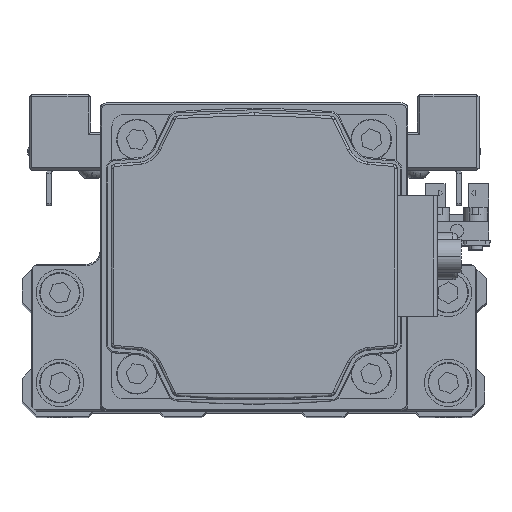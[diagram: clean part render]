
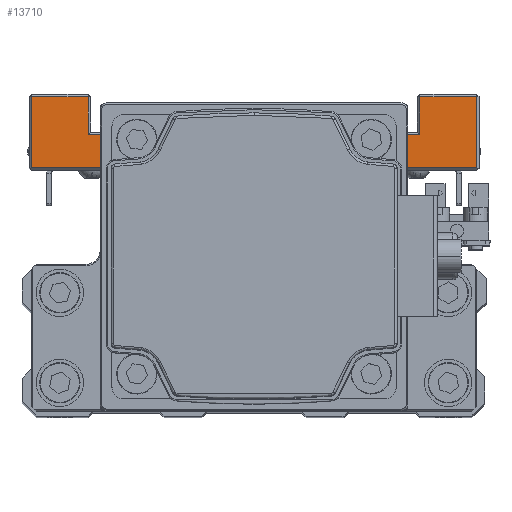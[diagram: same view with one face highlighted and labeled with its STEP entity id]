
A CAD part, top view. The second image highlights one B-rep face of the part: STEP entity #13710.
In plain terms, the highlighted planar face has unit normal (0, 0, 1) as drawn and (1, 0, 0) by its records, which use the part's own axes.
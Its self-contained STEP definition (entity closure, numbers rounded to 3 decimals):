
#421 = ORIENTED_EDGE ( 'NONE', *, *, #6845, .T. ) ;
#945 = DIRECTION ( 'NONE',  ( 0., 1., 0. ) ) ;
#1091 = CARTESIAN_POINT ( 'NONE',  ( 47., 7.5, -35. ) ) ;
#2567 = CARTESIAN_POINT ( 'NONE',  ( 47., 23., -20. ) ) ;
#2901 = LINE ( 'NONE', #14796, #26122 ) ;
#2998 = LINE ( 'NONE', #14891, #4138 ) ;
#3178 = DIRECTION ( 'NONE',  ( 0., 0., 1. ) ) ;
#3860 = ORIENTED_EDGE ( 'NONE', *, *, #11435, .F. ) ;
#4056 = CARTESIAN_POINT ( 'NONE',  ( 47., 7.5, -20. ) ) ;
#4138 = VECTOR ( 'NONE', #26796, 1000. ) ;
#5020 = LINE ( 'NONE', #16892, #8555 ) ;
#5540 = VERTEX_POINT ( 'NONE', #20480 ) ;
#6596 = ORIENTED_EDGE ( 'NONE', *, *, #32503, .T. ) ;
#6845 = EDGE_CURVE ( 'NONE', #36217, #7382, #29283, .T. ) ;
#7160 = LINE ( 'NONE', #19036, #23871 ) ;
#7382 = VERTEX_POINT ( 'NONE', #11886 ) ;
#7384 = CARTESIAN_POINT ( 'NONE',  ( 47., 15., -35. ) ) ;
#8328 = VERTEX_POINT ( 'NONE', #33794 ) ;
#8492 = ORIENTED_EDGE ( 'NONE', *, *, #25713, .T. ) ;
#8555 = VECTOR ( 'NONE', #28796, 1000. ) ;
#8734 = VERTEX_POINT ( 'NONE', #7384 ) ;
#9105 = AXIS2_PLACEMENT_3D ( 'NONE', #4056, #15951, #27849 ) ;
#9227 = ORIENTED_EDGE ( 'NONE', *, *, #29804, .T. ) ;
#9946 = EDGE_CURVE ( 'NONE', #8734, #20247, #17976, .T. ) ;
#10150 = EDGE_LOOP ( 'NONE', ( #3860, #26193, #9227, #29960, #22448, #25565, #8492, #421, #12111, #6596, #22669, #10760 ) ) ;
#10371 = EDGE_CURVE ( 'NONE', #25949, #8734, #27814, .T. ) ;
#10760 = ORIENTED_EDGE ( 'NONE', *, *, #32930, .T. ) ;
#11002 = VECTOR ( 'NONE', #12997, 1000. ) ;
#11435 = EDGE_CURVE ( 'NONE', #8328, #35724, #2998, .T. ) ;
#11623 = LINE ( 'NONE', #23521, #21177 ) ;
#11886 = CARTESIAN_POINT ( 'NONE',  ( 47., 23., 47. ) ) ;
#12111 = ORIENTED_EDGE ( 'NONE', *, *, #16546, .T. ) ;
#12289 = LINE ( 'NONE', #24193, #27911 ) ;
#12585 = CARTESIAN_POINT ( 'NONE',  ( 47., 8., -47. ) ) ;
#12588 = EDGE_CURVE ( 'NONE', #5540, #25949, #5020, .T. ) ;
#12629 = CARTESIAN_POINT ( 'NONE',  ( 47., 8., 20. ) ) ;
#12715 = LINE ( 'NONE', #24616, #32053 ) ;
#12997 = DIRECTION ( 'NONE',  ( 0., -1., 0. ) ) ;
#13596 = LINE ( 'NONE', #25498, #36180 ) ;
#13710 = ADVANCED_FACE ( 'NONE', ( #18875 ), #30764, .F. ) ;
#14182 = CARTESIAN_POINT ( 'NONE',  ( 47., 23., -35. ) ) ;
#14457 = DIRECTION ( 'NONE',  ( 0., 0., 1. ) ) ;
#14796 = CARTESIAN_POINT ( 'NONE',  ( 47., 8., 20. ) ) ;
#14891 = CARTESIAN_POINT ( 'NONE',  ( 47., 7.5, -20. ) ) ;
#15186 = VERTEX_POINT ( 'NONE', #12629 ) ;
#15776 = LINE ( 'NONE', #27669, #17288 ) ;
#15951 = DIRECTION ( 'NONE',  ( -1., 0., 0. ) ) ;
#16546 = EDGE_CURVE ( 'NONE', #7382, #30886, #13596, .T. ) ;
#16842 = VERTEX_POINT ( 'NONE', #12585 ) ;
#16892 = CARTESIAN_POINT ( 'NONE',  ( 47., 23., -20. ) ) ;
#17288 = VECTOR ( 'NONE', #945, 1000. ) ;
#17337 = CARTESIAN_POINT ( 'NONE',  ( 47., -7.5, 20. ) ) ;
#17976 = LINE ( 'NONE', #29885, #19708 ) ;
#18875 = FACE_OUTER_BOUND ( 'NONE', #10150, .T. ) ;
#19036 = CARTESIAN_POINT ( 'NONE',  ( 47., 7.5, -47. ) ) ;
#19590 = EDGE_CURVE ( 'NONE', #15186, #24299, #12289, .T. ) ;
#19708 = VECTOR ( 'NONE', #3178, 1000. ) ;
#20143 = CARTESIAN_POINT ( 'NONE',  ( 47., 15., 35. ) ) ;
#20247 = VERTEX_POINT ( 'NONE', #20143 ) ;
#20480 = CARTESIAN_POINT ( 'NONE',  ( 47., 23., -47. ) ) ;
#20952 = VECTOR ( 'NONE', #14457, 1000. ) ;
#21172 = CARTESIAN_POINT ( 'NONE',  ( 47., -7.5, -20. ) ) ;
#21177 = VECTOR ( 'NONE', #35414, 1000. ) ;
#22448 = ORIENTED_EDGE ( 'NONE', *, *, #10371, .T. ) ;
#22669 = ORIENTED_EDGE ( 'NONE', *, *, #19590, .T. ) ;
#23521 = CARTESIAN_POINT ( 'NONE',  ( 47., -7.5, -20. ) ) ;
#23871 = VECTOR ( 'NONE', #30939, 1000. ) ;
#24193 = CARTESIAN_POINT ( 'NONE',  ( 47., 7.5, 20. ) ) ;
#24299 = VERTEX_POINT ( 'NONE', #17337 ) ;
#24616 = CARTESIAN_POINT ( 'NONE',  ( 47., 8., -47. ) ) ;
#25498 = CARTESIAN_POINT ( 'NONE',  ( 47., 7.5, 47. ) ) ;
#25565 = ORIENTED_EDGE ( 'NONE', *, *, #9946, .T. ) ;
#25713 = EDGE_CURVE ( 'NONE', #20247, #36217, #15776, .T. ) ;
#25949 = VERTEX_POINT ( 'NONE', #14182 ) ;
#26122 = VECTOR ( 'NONE', #26698, 1000. ) ;
#26193 = ORIENTED_EDGE ( 'NONE', *, *, #37410, .T. ) ;
#26698 = DIRECTION ( 'NONE',  ( 0., 0., -1. ) ) ;
#26796 = DIRECTION ( 'NONE',  ( 0., -1., 0. ) ) ;
#27669 = CARTESIAN_POINT ( 'NONE',  ( 47., 7.5, 35. ) ) ;
#27814 = LINE ( 'NONE', #1091, #11002 ) ;
#27849 = DIRECTION ( 'NONE',  ( 0., 0., 1. ) ) ;
#27911 = VECTOR ( 'NONE', #36084, 1000. ) ;
#28796 = DIRECTION ( 'NONE',  ( 0., 0., 1. ) ) ;
#29283 = LINE ( 'NONE', #2567, #20952 ) ;
#29804 = EDGE_CURVE ( 'NONE', #16842, #5540, #7160, .T. ) ;
#29885 = CARTESIAN_POINT ( 'NONE',  ( 47., 15., -20. ) ) ;
#29960 = ORIENTED_EDGE ( 'NONE', *, *, #12588, .T. ) ;
#30764 = PLANE ( 'NONE',  #9105 ) ;
#30886 = VERTEX_POINT ( 'NONE', #32192 ) ;
#30939 = DIRECTION ( 'NONE',  ( 0., 1., 0. ) ) ;
#32053 = VECTOR ( 'NONE', #36512, 1000. ) ;
#32192 = CARTESIAN_POINT ( 'NONE',  ( 47., 8., 47. ) ) ;
#32503 = EDGE_CURVE ( 'NONE', #30886, #15186, #2901, .T. ) ;
#32930 = EDGE_CURVE ( 'NONE', #24299, #35724, #11623, .T. ) ;
#33794 = CARTESIAN_POINT ( 'NONE',  ( 47., 8., -20. ) ) ;
#35414 = DIRECTION ( 'NONE',  ( 0., 0., -1. ) ) ;
#35724 = VERTEX_POINT ( 'NONE', #21172 ) ;
#36084 = DIRECTION ( 'NONE',  ( 0., -1., 0. ) ) ;
#36180 = VECTOR ( 'NONE', #37396, 1000. ) ;
#36217 = VERTEX_POINT ( 'NONE', #36508 ) ;
#36508 = CARTESIAN_POINT ( 'NONE',  ( 47., 23., 35. ) ) ;
#36512 = DIRECTION ( 'NONE',  ( 0., 0., -1. ) ) ;
#37396 = DIRECTION ( 'NONE',  ( 0., -1., 0. ) ) ;
#37410 = EDGE_CURVE ( 'NONE', #8328, #16842, #12715, .T. ) ;
